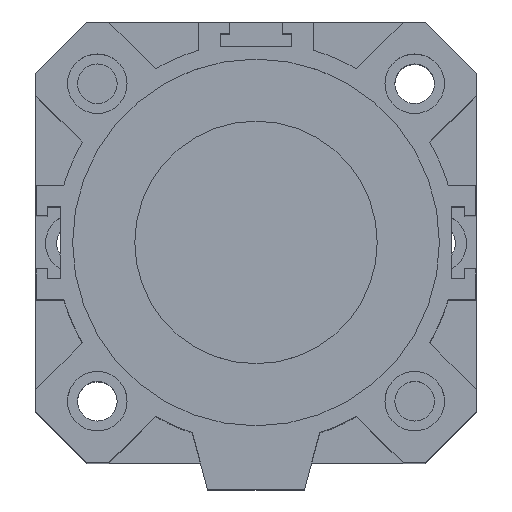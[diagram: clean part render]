
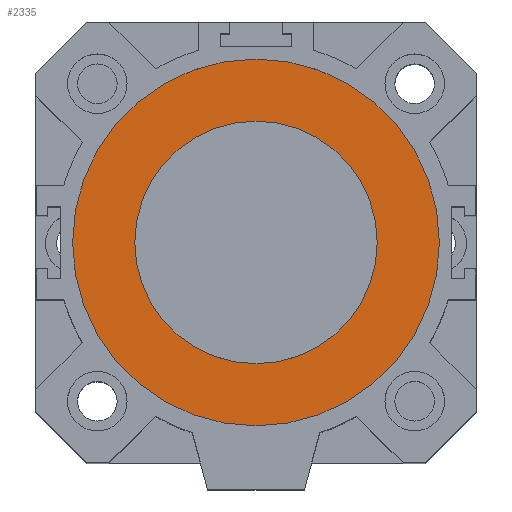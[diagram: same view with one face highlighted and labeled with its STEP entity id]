
A CAD part, top view. The second image highlights one B-rep face of the part: STEP entity #2335.
In plain terms, the highlighted planar face has unit normal (0, 0, 1).
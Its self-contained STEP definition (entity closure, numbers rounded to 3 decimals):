
#449=PLANE('',#2486);
#547=FACE_BOUND('',#766,.T.);
#548=FACE_BOUND('',#767,.T.);
#766=EDGE_LOOP('',(#1592));
#767=EDGE_LOOP('',(#1593));
#977=CIRCLE('',#2481,27.5);
#979=CIRCLE('',#2484,41.6);
#1065=VERTEX_POINT('',#3388);
#1067=VERTEX_POINT('',#3393);
#1287=EDGE_CURVE('',#1065,#1065,#977,.T.);
#1289=EDGE_CURVE('',#1067,#1067,#979,.T.);
#1592=ORIENTED_EDGE('',*,*,#1287,.F.);
#1593=ORIENTED_EDGE('',*,*,#1289,.F.);
#2335=ADVANCED_FACE('',(#547,#548),#449,.T.);
#2481=AXIS2_PLACEMENT_3D('',#3389,#2720,#2721);
#2484=AXIS2_PLACEMENT_3D('',#3394,#2726,#2727);
#2486=AXIS2_PLACEMENT_3D('',#3397,#2730,#2731);
#2720=DIRECTION('center_axis',(0.,0.,1.));
#2721=DIRECTION('ref_axis',(-1.,0.,0.));
#2726=DIRECTION('center_axis',(0.,0.,-1.));
#2727=DIRECTION('ref_axis',(-1.,0.,0.));
#2730=DIRECTION('center_axis',(0.,0.,1.));
#2731=DIRECTION('ref_axis',(1.,0.,0.));
#3388=CARTESIAN_POINT('',(27.5,0.,42.));
#3389=CARTESIAN_POINT('Origin',(0.,0.,42.));
#3393=CARTESIAN_POINT('',(41.6,0.,42.));
#3394=CARTESIAN_POINT('Origin',(0.,0.,42.));
#3397=CARTESIAN_POINT('Origin',(0.,0.,
42.));
